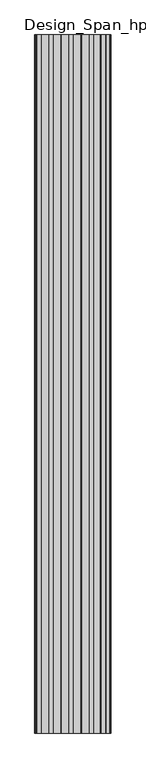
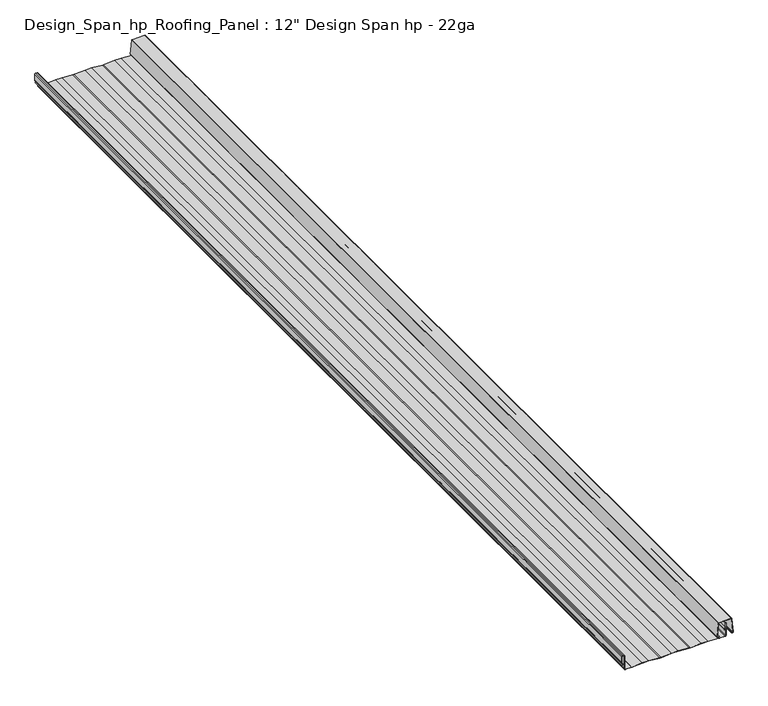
"""IFC4 building model written with IfcOpenShell, lengths in millimetres: proxy geometry."""

from ifc_helpers import new_model, si_unit, point, frame, frame_2d, origin, place, context, project, spatial, polyline, circle_curve, trimmed, segment, composite_curve, outline, extrude, faceted_brep, source, transform, mapped, element, save


def proxy_332a0bac(model_context):
    return source(origin(), model_context, "Body", "SolidModel", [
        extrude(outline(composite_curve([segment(polyline([(4.4419256, 170.6395257), (6.437251, 168.107061), (5.7905442, 167.654232), (3.9442331, 170.2910376)]), True, "CONTINUOUS"), segment(trimmed(circle_curve(frame_2d((5.6861569, 171.5107458)), 2.1264964), [point((3.9442331, 170.2910376))], [point((5.8529999, 173.6306869))], False, "CARTESIAN"), True, "CONTINUOUS"), segment(polyline([(5.8529999, 173.6306869), (48.7328659, 170.2559683)]), True, "CONTINUOUS"), segment(trimmed(circle_curve(frame_2d((48.5958163, 168.5145881)), 1.7467649), [point((48.7328659, 170.2559683))], [point((50.3425812, 168.5145881))], False, "CARTESIAN"), True, "CONTINUOUS"), segment(polyline([(50.3425812, 168.5145881), (50.3425812, 131.1286333)]), True, "CONTINUOUS"), segment(trimmed(circle_curve(frame_2d((48.5958163, 131.1286333)), 1.7467649), [point((50.3425812, 131.1286333))], [point((48.7736135, 129.3909406))], False, "CARTESIAN"), True, "CONTINUOUS"), segment(polyline([(48.7736135, 129.3909406), (5.8530235, 126.0125361)]), True, "CONTINUOUS"), segment(trimmed(circle_curve(frame_2d((5.6861569, 128.1324754)), 2.1264964), [point((5.8530235, 126.0125361))], [point((3.944233, 129.3521835))], False, "CARTESIAN"), True, "CONTINUOUS"), segment(polyline([(3.944233, 129.3521835), (5.7905442, 131.9889894), (6.4461875, 131.529903), (4.4419256, 128.9990132)]), True, "CONTINUOUS"), segment(trimmed(circle_curve(frame_2d((5.6861569, 128.127793)), 1.518926), [point((4.4419256, 128.9990132))], [point((5.805417, 126.6135562))], True, "CARTESIAN"), True, "CONTINUOUS"), segment(polyline([(5.805417, 126.6135562), (48.6981036, 129.9917491)]), True, "CONTINUOUS"), segment(trimmed(circle_curve(frame_2d((48.5948409, 131.1286333)), 1.1415643), [point((48.6981036, 129.9917491))], [point((49.7364052, 131.1286333))], True, "CARTESIAN"), True, "CONTINUOUS"), segment(polyline([(49.7364052, 131.1286333), (49.7364052, 168.5143592)]), True, "CONTINUOUS"), segment(trimmed(circle_curve(frame_2d((48.5965516, 168.5143592)), 1.1398536), [point((49.7364052, 168.5143592))], [point((48.6859705, 169.6507001))], True, "CARTESIAN"), True, "CONTINUOUS"), segment(polyline([(48.6859705, 169.6507001), (5.8053133, 173.0249908)]), True, "CONTINUOUS"), segment(trimmed(circle_curve(frame_2d((5.6861569, 171.5107458)), 1.518926), [point((5.8053133, 173.0249908))], [point((4.4419256, 170.6395257))], True, "CARTESIAN"), True, "CONTINUOUS")], self_intersect=False)), frame((0.0, -3048.0, 0.0), z_axis=(0.0, 1.0, 0.0), x_axis=(0.0, 0.0, 1.0)), (0.0, 0.0, 1.0), 3048.0),
        faceted_brep([(98.3896485, -3048.0, 2.1886753), (130.9591887, -3048.0, 0.0), (130.959119, -3048.0, 0.7815562), (98.3896485, -3048.0, 2.9702315), (78.8507431, -3048.0, 2.9702315), (46.2812018, -3048.0, 0.7815562), (42.3390647, -3048.0, 0.7815562), (9.7695234, -3048.0, 2.9702315), (-9.769382, -3048.0, 2.9702315), (-42.3389232, -3048.0, 0.7815562), (-46.2810604, -3048.0, 0.7815562), (-78.8506017, -3048.0, 2.9702315), (-98.3895071, -3048.0, 2.9702315), (-130.9590483, -3048.0, 0.7815609), (-130.959119, -3048.0, 0.0), (-98.3895071, -3048.0, 2.1886753), (-78.8506017, -3048.0, 2.1886753), (-46.2810604, -3048.0, 0.0), (-42.3389232, -3048.0, 0.0), (-9.769382, -3048.0, 2.1886753), (9.7695234, -3048.0, 2.1886753), (42.3390647, -3048.0, 0.0), (46.2812018, -3048.0, 0.0), (78.8507431, -3048.0, 2.1886753), (98.3896485, 0.0, 2.1886753), (78.8507431, 0.0, 2.1886753), (46.2812018, 0.0, 0.0), (42.3390647, 0.0, 0.0), (9.7695234, 0.0, 2.1886753), (-9.769382, 0.0, 2.1886753), (-42.3389232, 0.0, 0.0), (-46.2810604, 0.0, 0.0), (-78.8506017, 0.0, 2.1886753), (-98.3895071, 0.0, 2.1886753), (-130.959119, 0.0, 0.0), (-130.959119, 0.0, 0.7815609), (-98.3895071, 0.0, 2.9702315), (-78.8506017, 0.0, 2.9702315), (-46.2810604, 0.0, 0.7815562), (-42.3389232, 0.0, 0.7815562), (-9.769382, 0.0, 2.9702315), (9.7695234, 0.0, 2.9702315), (42.3390647, 0.0, 0.7815562), (46.2812018, 0.0, 0.7815562), (78.8507431, 0.0, 2.9702315), (98.3896485, 0.0, 2.9702315), (130.9591887, 0.0, 0.7815562), (130.959119, 0.0, 0.0)], [[[0, 1, 2, 3, 4, 5, 6, 7, 8, 9, 10, 11, 12, 13, 14, 15, 16, 17, 18, 19, 20, 21, 22, 23]], [[24, 25, 26, 27, 28, 29, 30, 31, 32, 33, 34, 35, 36, 37, 38, 39, 40, 41, 42, 43, 44, 45, 46, 47]], [[2, 1, 47, 46]], [[3, 2, 46, 45]], [[4, 3, 45, 44]], [[5, 4, 44, 43]], [[6, 5, 43, 42]], [[7, 6, 42, 41]], [[8, 7, 41, 40]], [[9, 8, 40, 39]], [[10, 9, 39, 38]], [[11, 10, 38, 37]], [[12, 11, 37, 36]], [[13, 12, 36, 35]], [[14, 13, 35, 34]], [[15, 14, 34, 33]], [[16, 15, 33, 32]], [[17, 16, 32, 31]], [[18, 17, 31, 30]], [[19, 18, 30, 29]], [[20, 19, 29, 28]], [[21, 20, 28, 27]], [[22, 21, 27, 26]], [[23, 22, 26, 25]], [[0, 23, 25, 24]], [[1, 0, 24, 47]]]),
        extrude(outline(composite_curve([segment(polyline([(42.1519319, 149.9511239), (30.9210398, 149.9511239), (23.9968051, 146.9404672)]), True, "CONTINUOUS"), segment(trimmed(circle_curve(frame_2d((23.5085734, 148.0633556)), 1.2244381), [point((23.9968051, 146.9404672))], [point((22.385685, 147.5751238))], False, "CARTESIAN"), True, "CONTINUOUS"), segment(trimmed(circle_curve(frame_2d((23.5085734, 148.0633556)), 1.2244381), [point((22.385685, 147.5751238))], [point((23.0203416, 149.186244))], False, "CARTESIAN"), True, "CONTINUOUS"), segment(polyline([(23.0203416, 149.186244), (26.5323542, 150.7132668), (26.8439915, 149.9965295), (23.3319789, 148.4695067)]), True, "CONTINUOUS"), segment(trimmed(circle_curve(frame_2d((23.5085734, 148.0633556)), 0.4428819), [point((23.3319789, 148.4695067))], [point((23.6851678, 147.6572045))], True, "CARTESIAN"), True, "CONTINUOUS"), segment(polyline([(23.6851678, 147.6572045), (30.3473938, 150.5539398)]), True, "CONTINUOUS"), segment(trimmed(circle_curve(frame_2d((31.2556072, 148.3359077)), 2.3967724), [point((30.3473938, 150.5539398))], [point((31.2556072, 150.7326801))], False, "CARTESIAN"), True, "CONTINUOUS"), segment(polyline([(31.2556072, 150.7326801), (42.1519319, 150.7326801)]), True, "CONTINUOUS"), segment(trimmed(circle_curve(frame_2d((42.1519319, 151.1755619)), 0.4428819), [point((42.1519319, 150.7326801))], [point((42.1519319, 151.6184438))], True, "CARTESIAN"), True, "CONTINUOUS"), segment(polyline([(42.1519319, 151.6184438), (2.3967724, 151.6184438)]), True, "CONTINUOUS"), segment(trimmed(circle_curve(frame_2d((2.3967724, 150.0032276)), 1.6152162), [point((2.3967724, 151.6184438))], [point((0.7815562, 150.0032276))], True, "CARTESIAN"), True, "CONTINUOUS"), segment(polyline([(0.7815562, 150.0032276), (0.7815562, 130.959119), (0.0, 130.959119), (0.0, 150.0032276)]), True, "CONTINUOUS"), segment(trimmed(circle_curve(frame_2d((2.3967724, 150.0032276)), 2.3967724), [point((0.0, 150.0032276))], [point((2.3967724, 152.4))], False, "CARTESIAN"), True, "CONTINUOUS"), segment(polyline([(2.3967724, 152.4), (42.1519319, 152.4)]), True, "CONTINUOUS"), segment(trimmed(circle_curve(frame_2d((42.1519319, 151.1755619)), 1.2244381), [point((42.1519319, 152.4))], [point((43.37637, 151.1755619))], False, "CARTESIAN"), True, "CONTINUOUS"), segment(trimmed(circle_curve(frame_2d((42.1519319, 151.1755619)), 1.2244381), [point((43.37637, 151.1755619))], [point((42.1519319, 149.9511239))], False, "CARTESIAN"), True, "CONTINUOUS")], self_intersect=False)), frame((0.0, -3048.0, 0.0), z_axis=(0.0, 1.0, 0.0), x_axis=(0.0, 0.0, 1.0)), (0.0, 0.0, 1.0), 3048.0),
        extrude(outline(composite_curve([segment(polyline([(0.0, -150.0032347), (0.0, -130.959119), (0.7815609, -130.959119), (0.7815609, -150.0032217)]), True, "CONTINUOUS"), segment(trimmed(circle_curve(frame_2d((2.39677, -150.0032217)), 1.6152092), [point((0.7815609, -150.0032217))], [point((2.39677, -151.6184309))], True, "CARTESIAN"), True, "CONTINUOUS"), segment(polyline([(2.39677, -151.6184309), (43.1940318, -151.6184309)]), True, "CONTINUOUS"), segment(trimmed(circle_curve(frame_2d((43.1940318, -154.0152285)), 2.3967976), [point((43.1940318, -151.6184309))], [point((45.5908294, -154.0152285))], False, "CARTESIAN"), True, "CONTINUOUS"), segment(polyline([(45.5908294, -154.0152285), (45.5908294, -158.0794084)]), True, "CONTINUOUS"), segment(trimmed(circle_curve(frame_2d((43.193957, -158.0794084)), 2.3968724), [point((45.5908294, -158.0794084))], [point((43.193957, -160.4762808))], False, "CARTESIAN"), True, "CONTINUOUS"), segment(polyline([(43.193957, -160.4762808), (22.4058602, -160.4762808)]), True, "CONTINUOUS"), segment(trimmed(circle_curve(frame_2d((22.4058602, -158.652135)), 1.8241458), [point((22.4058602, -160.4762808))], [point((20.5952813, -158.4300713))], False, "CARTESIAN"), True, "CONTINUOUS"), segment(trimmed(circle_curve(frame_2d((19.5550248, -158.3573483)), 1.0427954), [point((20.5952813, -158.4300713))], [point((19.1140543, -157.4123787))], True, "CARTESIAN"), True, "CONTINUOUS"), segment(polyline([(19.1140543, -157.4123787), (15.2850421, -159.1980955), (14.9547093, -158.4897815), (18.7837558, -156.7040487)]), True, "CONTINUOUS"), segment(trimmed(circle_curve(frame_2d((19.5550248, -158.3573432)), 1.8243461), [point((18.7837558, -156.7040487))], [point((21.3658028, -158.5794277))], False, "CARTESIAN"), True, "CONTINUOUS"), segment(trimmed(circle_curve(frame_2d((22.4058592, -158.6521329)), 1.0425946), [point((21.3658028, -158.5794277))], [point((22.4058592, -159.6947275))], True, "CARTESIAN"), True, "CONTINUOUS"), segment(polyline([(22.4058592, -159.6947275), (43.1939563, -159.6947275)]), True, "CONTINUOUS"), segment(trimmed(circle_curve(frame_2d((43.1939563, -158.0794099)), 1.6153176), [point((43.1939563, -159.6947275))], [point((44.8092739, -158.0794099))], True, "CARTESIAN"), True, "CONTINUOUS"), segment(polyline([(44.8092739, -158.0794099), (44.8092739, -154.0152417)]), True, "CONTINUOUS"), segment(trimmed(circle_curve(frame_2d((43.1940321, -154.0152417)), 1.6152417), [point((44.8092739, -154.0152417))], [point((43.1940321, -152.4))], True, "CARTESIAN"), True, "CONTINUOUS"), segment(polyline([(43.1940321, -152.4), (2.3967653, -152.4)]), True, "CONTINUOUS"), segment(trimmed(circle_curve(frame_2d((2.3967653, -150.0032347)), 2.3967653), [point((2.3967653, -152.4))], [point((0.0, -150.0032347))], False, "CARTESIAN"), True, "CONTINUOUS")], self_intersect=False)), frame((0.0, -3048.0, 0.0), z_axis=(0.0, 1.0, 0.0), x_axis=(0.0, 0.0, 1.0)), (0.0, 0.0, 1.0), 3048.0),
    ])


if __name__ == "__main__":
    model = new_model("IFC4")
    model_context = context("Model", 3, world=origin())
    ifc_project = project(units=[si_unit("LENGTHUNIT", "METRE", prefix="MILLI")], contexts=[model_context])
    site = spatial("IfcSite", under=ifc_project)
    building = spatial("IfcBuilding", under=site)
    placement = place(None, origin())
    proxy_shape = proxy_332a0bac(model_context)
    element("IfcBuildingElementProxy", 1, Name="Design_Span_hp_Roofing_Panel : 12\" Design Span hp - 22ga", ObjectType="Design_Span_hp_Roofing_Panel : 12\" Design Span hp - 22ga", at=placement, inside=building, context=model_context, shape_type="MappedRepresentation", body=[
        mapped(proxy_shape, transform((0.0, 0.0, 0.0), x_axis=(1.0, 0.0, 0.0), y_axis=(0.0, 1.0, 0.0), z_axis=(0.0, 0.0, 1.0))),
    ])
    save(model, "model.ifc")
